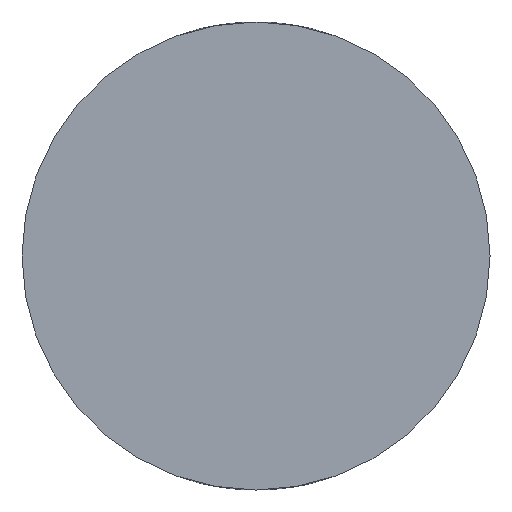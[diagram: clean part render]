
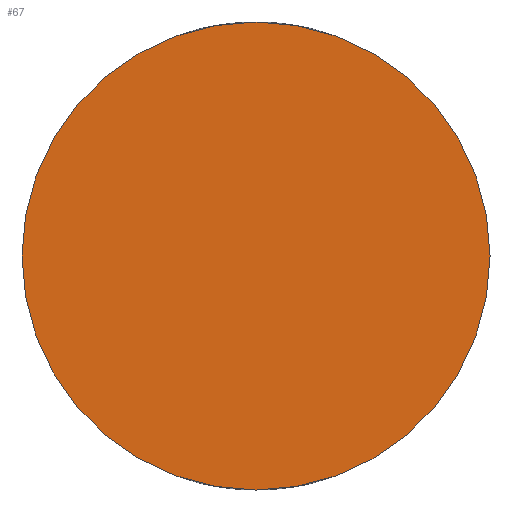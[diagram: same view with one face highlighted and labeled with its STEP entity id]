
A CAD part, front view. The second image highlights one B-rep face of the part: STEP entity #67.
In plain terms, the highlighted planar face has unit normal (0, -1, 0).
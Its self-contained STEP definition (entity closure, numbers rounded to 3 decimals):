
#67=ADVANCED_FACE('',(#74),#72,.F.);
#72=PLANE('',#107);
#74=FACE_OUTER_BOUND('',#78,.T.);
#78=EDGE_LOOP('',(#86));
#86=ORIENTED_EDGE('',*,*,#98,.F.);
#94=VERTEX_POINT('',#132);
#98=EDGE_CURVE('',#94,#94,#102,.T.);
#102=CIRCLE('',#106,4.);
#106=AXIS2_PLACEMENT_3D('',#131,#117,#118);
#107=AXIS2_PLACEMENT_3D('',#133,#119,#120);
#117=DIRECTION('',(0.,1.,0.));
#118=DIRECTION('',(0.,0.,-1.));
#119=DIRECTION('',(0.,1.,0.));
#120=DIRECTION('',(0.,0.,1.));
#131=CARTESIAN_POINT('',(0.,-5.,0.));
#132=CARTESIAN_POINT('',(0.,-5.,-4.));
#133=CARTESIAN_POINT('',(0.,-5.,0.));
